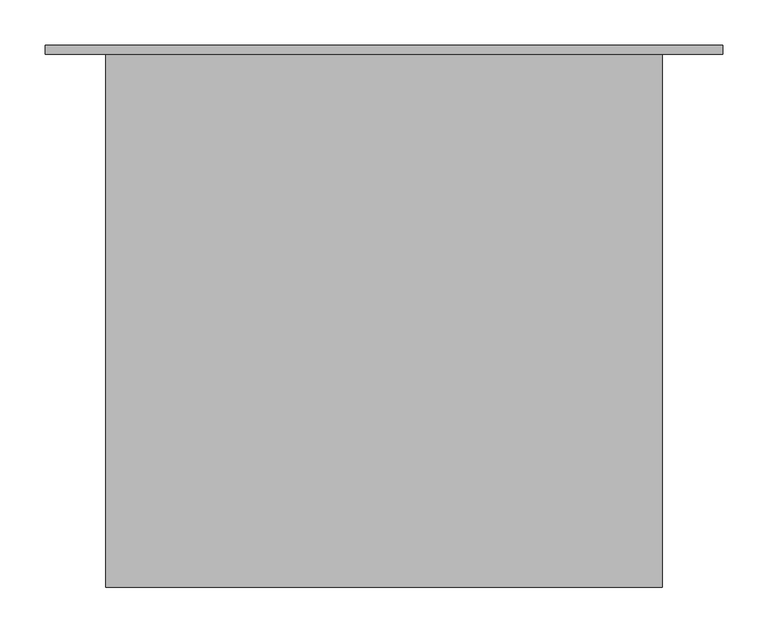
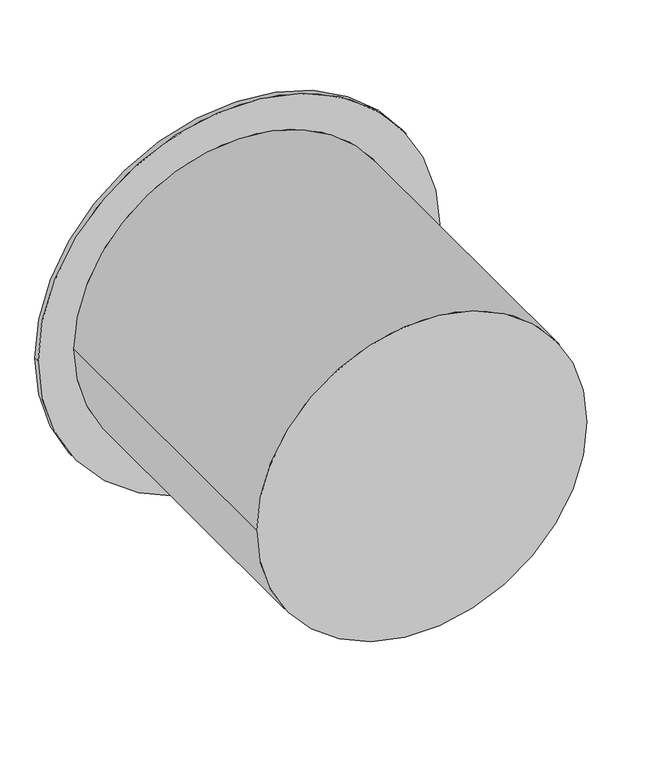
"""IFC4 building model written with IfcOpenShell, lengths in millimetres: proxy geometry, SU.600mmDia.ManwayRiser.600-10."""

from ifc_helpers import new_model, si_unit, frame, origin, place, context, project, spatial, circle_curve, source, transform, mapped, element, save
from ifc_brep_helpers import plane_surface, cylinder_surface, advanced_brep


def generic_models_de51d8ae(model_context):
    return source(origin(), model_context, "Body", "AdvancedBrep", [
        advanced_brep(
        [(-375.0, 590.0, 0.0), (-375.0, 600.0, 0.0), (375.0, 600.0, 0.0), (375.0, 590.0, 0.0), (-308.0, 0.0, 0.0), (-308.0, 590.0, 0.0), (308.0, 590.0, 0.0), (308.0, 0.0, 0.0)],
        [
            (0, 1),
            (1, 2, circle_curve(frame((0.0, 600.0, 0.0), z_axis=(0.0, -1.0, 0.0), x_axis=(-1.0, 0.0, 0.0)), 375.0)),
            (2, 3),
            (3, 0, circle_curve(frame((0.0, 590.0, 0.0), z_axis=(0.0, 1.0, 0.0), x_axis=(-1.0, 0.0, 0.0)), 375.0)),
            (4, 5),
            (5, 6, circle_curve(frame((0.0, 590.0, 0.0), z_axis=(0.0, -1.0, 0.0), x_axis=(-1.0, 0.0, 0.0)), 308.0)),
            (6, 7),
            (7, 4, circle_curve(frame((0.0, 0.0, 0.0), z_axis=(0.0, 1.0, 0.0), x_axis=(-1.0, 0.0, 0.0)), 308.0)),
            (1, 2, circle_curve(frame((0.0, 600.0, 0.0), z_axis=(0.0, 1.0, 0.0), x_axis=(-1.0, 0.0, 0.0)), 375.0)),
            (7, 4, circle_curve(frame((0.0, 0.0, 0.0), z_axis=(0.0, -1.0, 0.0), x_axis=(-1.0, 0.0, 0.0)), 308.0)),
            (6, 5, circle_curve(frame((0.0, 590.0, 0.0), z_axis=(0.0, -1.0, 0.0), x_axis=(-1.0, 0.0, 0.0)), 308.0)),
            (3, 0, circle_curve(frame((0.0, 590.0, 0.0), z_axis=(0.0, -1.0, 0.0), x_axis=(-1.0, 0.0, 0.0)), 375.0)),
        ],
        [
            cylinder_surface(frame((0.0, 595.0, 0.0), z_axis=(0.0, 1.0, 0.0), x_axis=(-1.0, 0.0, 0.0)), 375.0),
            cylinder_surface(frame((0.0, 295.0, 0.0), z_axis=(0.0, 1.0, 0.0), x_axis=(-1.0, 0.0, 0.0)), 308.0),
            plane_surface(frame((-300.0, 600.0, 0.0), z_axis=(0.0, 1.0, 0.0), x_axis=(0.0, 0.0, 1.0))),
            plane_surface(frame((-308.0, 0.0, 0.0), z_axis=(0.0, -1.0, 0.0), x_axis=(0.0, 0.0, -1.0))),
            plane_surface(frame((-375.0, 590.0, 0.0), z_axis=(0.0, -1.0, 0.0), x_axis=(0.0, 0.0, -1.0))),
        ],
        [
            (0, [[1, 2, 3, 4]]),
            (1, [[5, 6, 7, 8]]),
            (2, [[9, -2]]),
            (3, [[10, -8]]),
            (1, [[-5, -10, -7, 11]]),
            (4, [[12, -4], [-11, -6]]),
            (0, [[-1, -12, -3, -9]]),
        ],
    ),
    ])


if __name__ == "__main__":
    model = new_model("IFC4")
    model_context = context("Model", 3, world=origin())
    ifc_project = project(units=[si_unit("LENGTHUNIT", "METRE", prefix="MILLI")], contexts=[model_context])
    site = spatial("IfcSite", under=ifc_project)
    building = spatial("IfcBuilding", under=site)
    placement = place(None, origin())
    generic_models_shape = generic_models_de51d8ae(model_context)
    element("IfcBuildingElementProxy", 1, Name="SU.600mmDia.ManwayRiser.600-10", ObjectType="SU.600mmDia.ManwayRiser.600-10", at=placement, inside=building, context=model_context, shape_type="MappedRepresentation", body=[
        mapped(generic_models_shape, transform((0.0, 0.0, 0.0), x_axis=(1.0, 0.0, 0.0), y_axis=(0.0, 1.0, 0.0), z_axis=(0.0, 0.0, 1.0))),
    ])
    save(model, "model.ifc")
